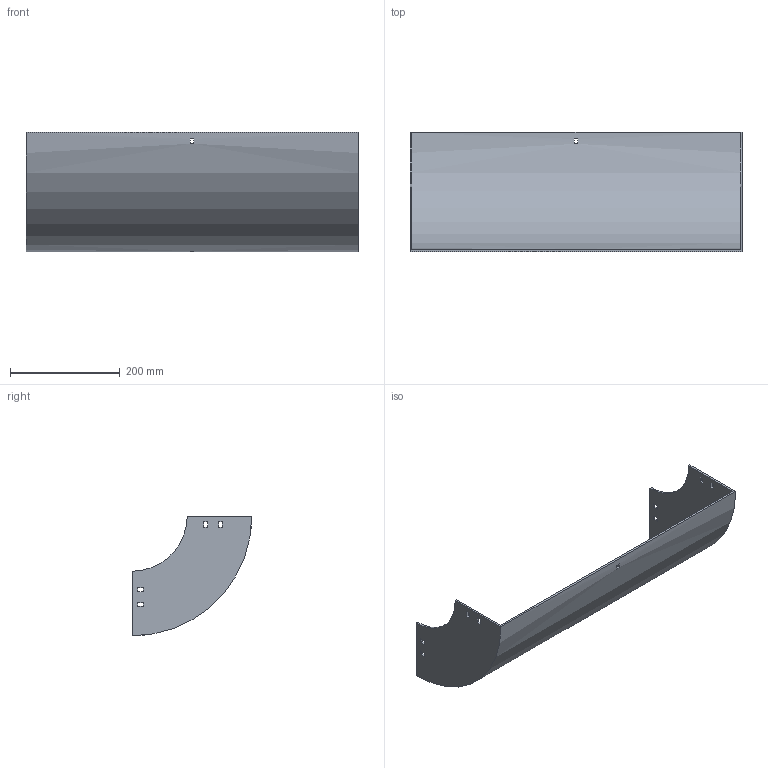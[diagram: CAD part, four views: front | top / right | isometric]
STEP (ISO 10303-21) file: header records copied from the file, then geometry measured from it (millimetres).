
FILE_DESCRIPTION (( 'STEP AP214' ), '1' );
FILE_NAME ('30B1J600.step', '2025-02-21T09:49:17', ( '' ), ( '' ), 'SwSTEP 2.0', 'SolidWorks 2023', '' );
FILE_SCHEMA (( 'AUTOMOTIVE_DESIGN' ));
Length unit declared in the file: millimetre
Products named in the file (1): 30B1J600
Bounding box: 604 x 217.5 x 217.5 mm (x, y, z)
Volume: 910861.2 mm3; surface area: 528604.6 mm2
Topology: 1 solids, 1 shells, 50 faces, 144 edges, 96 vertices
Faces by surface type: plane 46, cylinder 4
Entity records: 1687 total; most frequent: CARTESIAN_POINT 291, ORIENTED_EDGE 288, DIRECTION 262, EDGE_CURVE 144, VECTOR 128, LINE 128, VERTEX_POINT 96, EDGE_LOOP 70
